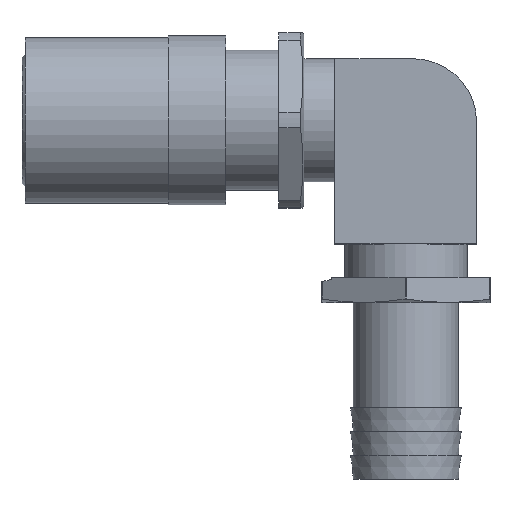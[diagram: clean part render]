
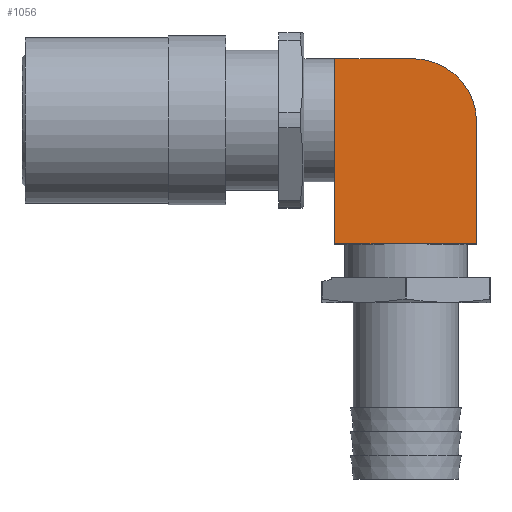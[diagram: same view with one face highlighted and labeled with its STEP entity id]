
A CAD part, top view. The second image highlights one B-rep face of the part: STEP entity #1056.
In plain terms, the highlighted planar face has unit normal (0, 0, 1).
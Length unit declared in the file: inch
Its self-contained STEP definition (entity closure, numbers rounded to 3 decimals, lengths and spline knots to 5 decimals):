
#35=PLANE('',#1184);
#107=LINE('',#1882,#161);
#111=LINE('',#1890,#165);
#114=LINE('',#1898,#168);
#117=LINE('',#1904,#171);
#161=VECTOR('',#1425,39.37008);
#165=VECTOR('',#1431,39.37008);
#168=VECTOR('',#1438,39.37008);
#171=VECTOR('',#1443,39.37008);
#219=CIRCLE('',#1183,0.45);
#397=ORIENTED_EDGE('',*,*,#624,.T.);
#398=ORIENTED_EDGE('',*,*,#628,.T.);
#399=ORIENTED_EDGE('',*,*,#632,.T.);
#400=ORIENTED_EDGE('',*,*,#635,.T.);
#401=ORIENTED_EDGE('',*,*,#637,.T.);
#624=EDGE_CURVE('',#743,#742,#107,.T.);
#628=EDGE_CURVE('',#742,#745,#111,.T.);
#632=EDGE_CURVE('',#745,#748,#114,.T.);
#635=EDGE_CURVE('',#748,#750,#117,.T.);
#637=EDGE_CURVE('',#750,#743,#219,.T.);
#742=VERTEX_POINT('',#1881);
#743=VERTEX_POINT('',#1883);
#745=VERTEX_POINT('',#1889);
#748=VERTEX_POINT('',#1897);
#750=VERTEX_POINT('',#1903);
#843=EDGE_LOOP('',(#397,#398,#399,#400,#401));
#945=FACE_BOUND('',#843,.T.);
#1056=ADVANCED_FACE('',(#945),#35,.T.);
#1183=AXIS2_PLACEMENT_3D('',#1907,#1448,#1449);
#1184=AXIS2_PLACEMENT_3D('',#1908,#1450,#1451);
#1425=DIRECTION('',(-1.,0.,0.));
#1431=DIRECTION('',(0.,-1.,0.));
#1438=DIRECTION('',(1.,0.,0.));
#1443=DIRECTION('',(0.,1.,0.));
#1448=DIRECTION('',(0.,0.,1.));
#1449=DIRECTION('',(1.,0.,0.));
#1450=DIRECTION('',(0.,0.,1.));
#1451=DIRECTION('',(1.,0.,0.));
#1881=CARTESIAN_POINT('',(2.206,0.4375,0.5));
#1882=CARTESIAN_POINT('',(2.766,0.4375,0.5));
#1883=CARTESIAN_POINT('',(2.766,0.4375,0.5));
#1889=CARTESIAN_POINT('',(2.206,-0.8825,0.5));
#1890=CARTESIAN_POINT('',(2.206,0.4375,0.5));
#1897=CARTESIAN_POINT('',(3.216,-0.8825,0.5));
#1898=CARTESIAN_POINT('',(2.206,-0.8825,0.5));
#1903=CARTESIAN_POINT('',(3.216,-0.0125,0.5));
#1904=CARTESIAN_POINT('',(3.216,-0.8825,0.5));
#1907=CARTESIAN_POINT('',(2.766,-0.0125,0.5));
#1908=CARTESIAN_POINT('',(2.766,-0.0125,0.5));
